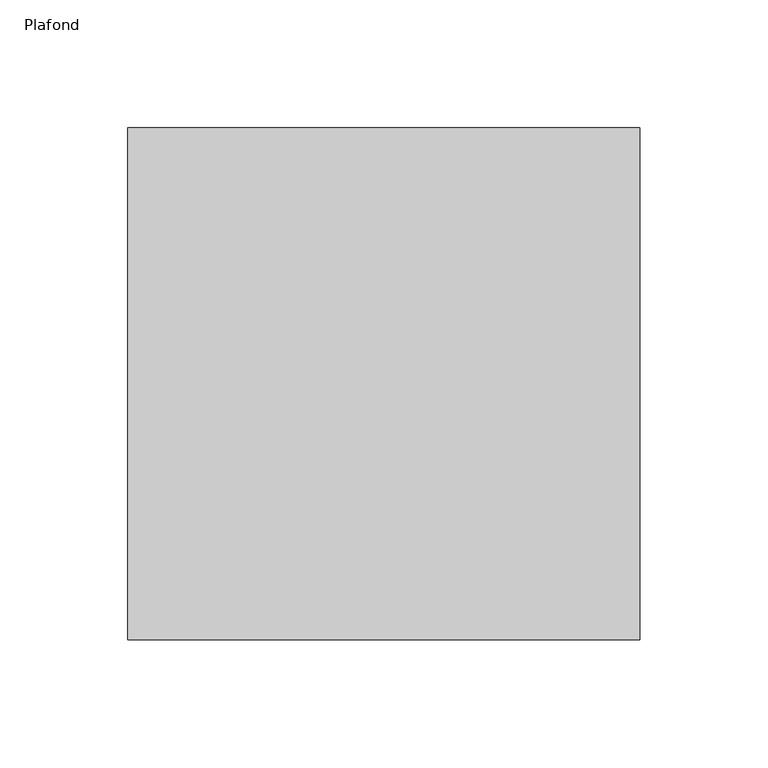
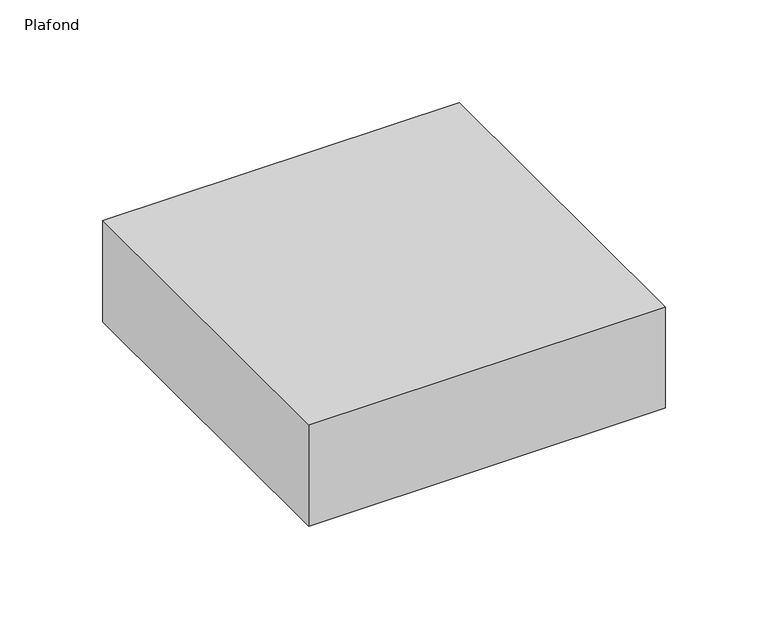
"""IFC4 building model written with IfcOpenShell, lengths in millimetres: light fixture geometry, AI_Luminaire_Borne WIFI : Plafond."""

from ifc_helpers import new_model, si_unit, origin, origin_with_axes, place, context, project, spatial, polyline, outline, extrude, source, transform, mapped, element, save


def plafond_a018df44(model_context):
    return source(origin(), model_context, "Body", "SweptSolid", [
        extrude(outline(polyline([(200.0, 0.0), (0.0, 0.0), (0.0, 200.0), (200.0, 200.0), (200.0, 0.0)])), origin_with_axes(), (0.0, 0.0, 1.0), 60.0),
    ])


if __name__ == "__main__":
    model = new_model("IFC4")
    model_context = context("Model", 3, world=origin())
    ifc_project = project(units=[si_unit("LENGTHUNIT", "METRE", prefix="MILLI")], contexts=[model_context])
    site = spatial("IfcSite", under=ifc_project)
    building = spatial("IfcBuilding", under=site)
    placement = place(None, origin())
    plafond_shape = plafond_a018df44(model_context)
    element("IfcLightFixture", 1, ObjectType="AI_Luminaire_Borne WIFI : Plafond", at=placement, inside=building, context=model_context, shape_type="MappedRepresentation", body=[
        mapped(plafond_shape, transform((0.0, 0.0, 0.0), x_axis=(1.0, 0.0, 0.0), y_axis=(0.0, 1.0, 0.0), z_axis=(0.0, 0.0, 1.0))),
    ])
    save(model, "model.ifc")
